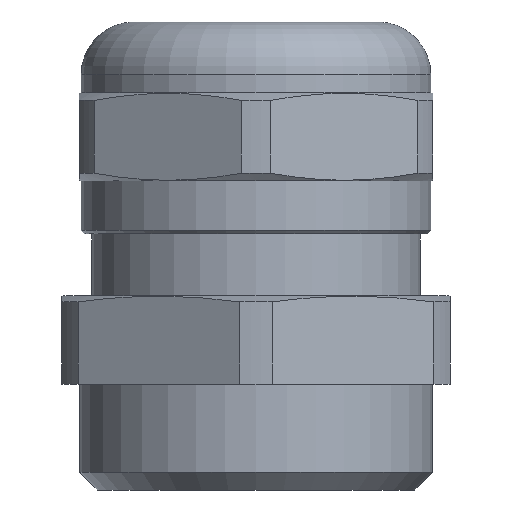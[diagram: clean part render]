
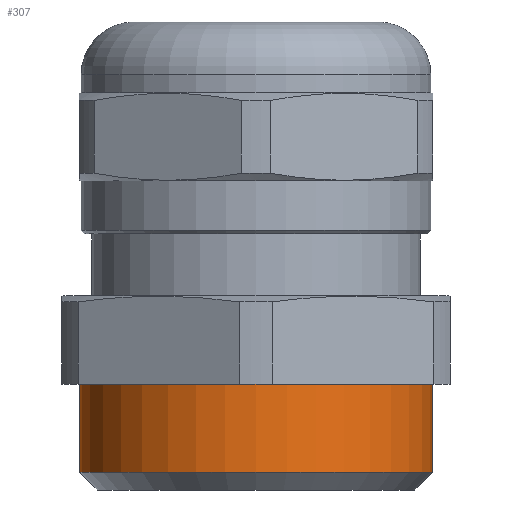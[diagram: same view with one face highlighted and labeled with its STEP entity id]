
A CAD part, front view. The second image highlights one B-rep face of the part: STEP entity #307.
In plain terms, the highlighted cylindrical face has radius 10 mm (diameter 20 mm), a partial arc.
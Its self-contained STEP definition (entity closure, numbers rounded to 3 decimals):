
#264 = EDGE_CURVE ( 'NONE', #286, #293, #1427, .T. ) ;
#286 = VERTEX_POINT ( 'NONE', #1625 ) ;
#287 = VERTEX_POINT ( 'NONE', #1624 ) ;
#289 = EDGE_CURVE ( 'NONE', #287, #290, #1623, .T. ) ;
#290 = VERTEX_POINT ( 'NONE', #1619 ) ;
#293 = VERTEX_POINT ( 'NONE', #1613 ) ;
#306 = EDGE_CURVE ( 'NONE', #290, #293, #1694, .T. ) ;
#307 = ADVANCED_FACE ( 'NONE', ( #1689 ), #1688, .T. ) ;
#308 = EDGE_LOOP ( 'NONE', ( #309, #310, #312, #313 ) ) ;
#309 = ORIENTED_EDGE ( 'NONE', *, *, #289, .F. ) ;
#310 = ORIENTED_EDGE ( 'NONE', *, *, #311, .T. ) ;
#311 = EDGE_CURVE ( 'NONE', #287, #286, #1687, .T. ) ;
#312 = ORIENTED_EDGE ( 'NONE', *, *, #264, .T. ) ;
#313 = ORIENTED_EDGE ( 'NONE', *, *, #306, .F. ) ;
#1424 = DIRECTION ( 'NONE',  ( 0., 0., -1. ) ) ;
#1425 = VECTOR ( 'NONE', #1424, 1000. ) ;
#1426 = CARTESIAN_POINT ( 'NONE',  ( -10., 0., 0. ) ) ;
#1427 = LINE ( 'NONE', #1426, #1425 ) ;
#1613 = CARTESIAN_POINT ( 'NONE',  ( -10., 0., 1. ) ) ;
#1619 = CARTESIAN_POINT ( 'NONE',  ( 10., 0., 1. ) ) ;
#1620 = DIRECTION ( 'NONE',  ( 0., 0., -1. ) ) ;
#1621 = VECTOR ( 'NONE', #1620, 1000. ) ;
#1622 = CARTESIAN_POINT ( 'NONE',  ( 10., 0., 0. ) ) ;
#1623 = LINE ( 'NONE', #1622, #1621 ) ;
#1624 = CARTESIAN_POINT ( 'NONE',  ( 10., 0., 6. ) ) ;
#1625 = CARTESIAN_POINT ( 'NONE',  ( -10., 0., 6. ) ) ;
#1679 = DIRECTION ( 'NONE',  ( -1., 0., 0. ) ) ;
#1680 = DIRECTION ( 'NONE',  ( 0., 0., -1. ) ) ;
#1681 = CARTESIAN_POINT ( 'NONE',  ( 0., 0., 6. ) ) ;
#1682 = AXIS2_PLACEMENT_3D ( 'NONE', #1681, #1680, #1679 ) ;
#1683 = DIRECTION ( 'NONE',  ( -1., 0., 0. ) ) ;
#1684 = DIRECTION ( 'NONE',  ( 0., 0., -1. ) ) ;
#1685 = CARTESIAN_POINT ( 'NONE',  ( 0., 0., 0. ) ) ;
#1686 = AXIS2_PLACEMENT_3D ( 'NONE', #1685, #1684, #1683 ) ;
#1687 = CIRCLE ( 'NONE', #1682, 10. ) ;
#1688 = CYLINDRICAL_SURFACE ( 'NONE', #1686, 10. ) ;
#1689 = FACE_OUTER_BOUND ( 'NONE', #308, .T. ) ;
#1690 = DIRECTION ( 'NONE',  ( -1., 0., 0. ) ) ;
#1691 = DIRECTION ( 'NONE',  ( 0., 0., -1. ) ) ;
#1692 = CARTESIAN_POINT ( 'NONE',  ( 0., 0., 1. ) ) ;
#1693 = AXIS2_PLACEMENT_3D ( 'NONE', #1692, #1691, #1690 ) ;
#1694 = CIRCLE ( 'NONE', #1693, 10. ) ;
